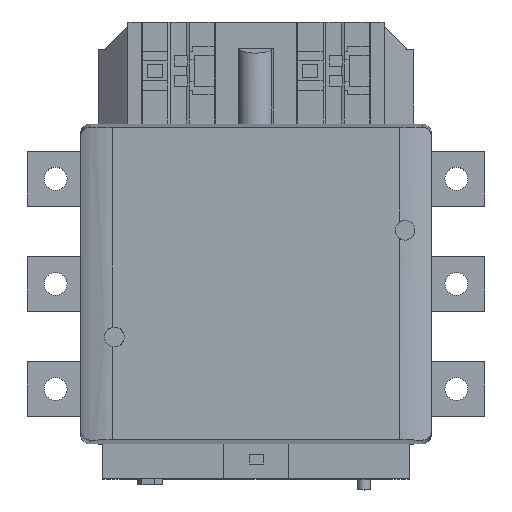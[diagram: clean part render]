
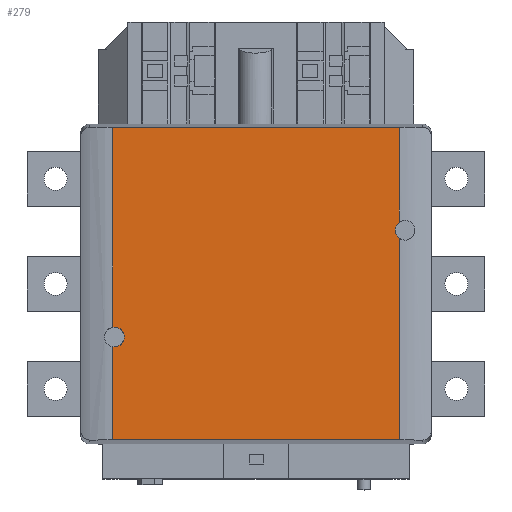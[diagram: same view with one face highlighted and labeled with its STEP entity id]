
A CAD part, top view. The second image highlights one B-rep face of the part: STEP entity #279.
In plain terms, the highlighted planar face has unit normal (0, 0, 1).
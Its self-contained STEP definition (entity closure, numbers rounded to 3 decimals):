
#279=ADVANCED_FACE('',(#1141),#742,.F.);
#742=PLANE('',#9125);
#1141=FACE_OUTER_BOUND('',#1565,.T.);
#1565=EDGE_LOOP('',(#2251,#2252,#2253,#2254,#2255,#2256,#2257,#2258));
#2072=CIRCLE('',#9123,4.5);
#2073=CIRCLE('',#9124,4.5);
#2251=ORIENTED_EDGE('',*,*,#5623,.F.);
#2252=ORIENTED_EDGE('',*,*,#5624,.T.);
#2253=ORIENTED_EDGE('',*,*,#5625,.F.);
#2254=ORIENTED_EDGE('',*,*,#5626,.T.);
#2255=ORIENTED_EDGE('',*,*,#5627,.F.);
#2256=ORIENTED_EDGE('',*,*,#5628,.T.);
#2257=ORIENTED_EDGE('',*,*,#5629,.F.);
#2258=ORIENTED_EDGE('',*,*,#5630,.T.);
#4779=VERTEX_POINT('',#12145);
#4780=VERTEX_POINT('',#12146);
#4781=VERTEX_POINT('',#12148);
#4782=VERTEX_POINT('',#12150);
#4783=VERTEX_POINT('',#12152);
#4784=VERTEX_POINT('',#12154);
#4785=VERTEX_POINT('',#12156);
#4786=VERTEX_POINT('',#12158);
#5623=EDGE_CURVE('',#4779,#4780,#2072,.T.);
#5624=EDGE_CURVE('',#4779,#4781,#6892,.T.);
#5625=EDGE_CURVE('',#4782,#4781,#6893,.T.);
#5626=EDGE_CURVE('',#4782,#4783,#6894,.T.);
#5627=EDGE_CURVE('',#4784,#4783,#2073,.T.);
#5628=EDGE_CURVE('',#4784,#4785,#6895,.T.);
#5629=EDGE_CURVE('',#4786,#4785,#6896,.T.);
#5630=EDGE_CURVE('',#4786,#4780,#6897,.T.);
#6892=LINE('',#12147,#8036);
#6893=LINE('',#12149,#8037);
#6894=LINE('',#12151,#8038);
#6895=LINE('',#12155,#8039);
#6896=LINE('',#12157,#8040);
#6897=LINE('',#12159,#8041);
#8036=VECTOR('',#9782,1.);
#8037=VECTOR('',#9783,1.);
#8038=VECTOR('',#9784,1.);
#8039=VECTOR('',#9787,1.);
#8040=VECTOR('',#9788,1.);
#8041=VECTOR('',#9789,1.);
#9123=AXIS2_PLACEMENT_3D('',#12144,#9780,#9781);
#9124=AXIS2_PLACEMENT_3D('',#12153,#9785,#9786);
#9125=AXIS2_PLACEMENT_3D('',#12160,#9790,#9791);
#9780=DIRECTION('',(0.,0.,1.));
#9781=DIRECTION('',(1.,0.,0.));
#9782=DIRECTION('',(0.,-1.,0.));
#9783=DIRECTION('',(-1.,0.,0.));
#9784=DIRECTION('',(0.,1.,0.));
#9785=DIRECTION('',(0.,0.,1.));
#9786=DIRECTION('',(1.,0.,0.));
#9787=DIRECTION('',(0.,1.,0.));
#9788=DIRECTION('',(1.,0.,0.));
#9789=DIRECTION('',(0.,-1.,0.));
#9790=DIRECTION('',(0.,0.,-1.));
#9791=DIRECTION('',(0.,1.,0.));
#12144=CARTESIAN_POINT('',(-64.675,-24.344,0.));
#12145=CARTESIAN_POINT('',(-65.504,-28.767,0.));
#12146=CARTESIAN_POINT('',(-65.504,-19.921,0.));
#12147=CARTESIAN_POINT('',(-65.504,-100.,0.));
#12148=CARTESIAN_POINT('',(-65.504,-71.365,0.));
#12149=CARTESIAN_POINT('',(-120.,-71.365,0.));
#12150=CARTESIAN_POINT('',(65.504,-71.365,0.));
#12151=CARTESIAN_POINT('',(65.504,-100.,0.));
#12152=CARTESIAN_POINT('',(65.504,20.623,0.));
#12153=CARTESIAN_POINT('',(68.004,24.365,0.));
#12154=CARTESIAN_POINT('',(65.504,28.106,0.));
#12155=CARTESIAN_POINT('',(65.504,-100.,0.));
#12156=CARTESIAN_POINT('',(65.504,71.365,0.));
#12157=CARTESIAN_POINT('',(-120.,71.365,0.));
#12158=CARTESIAN_POINT('',(-65.504,71.365,0.));
#12159=CARTESIAN_POINT('',(-65.504,-100.,0.));
#12160=CARTESIAN_POINT('',(-120.,0.,0.));
